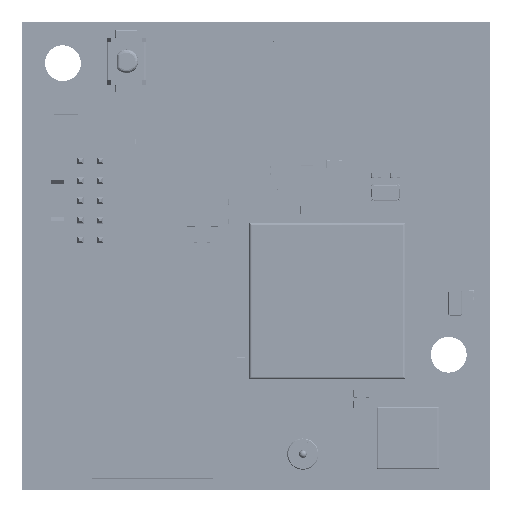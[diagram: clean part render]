
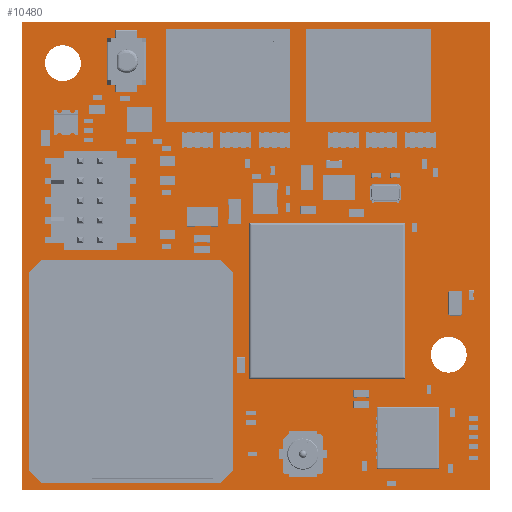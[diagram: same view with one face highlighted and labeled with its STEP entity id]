
A CAD part, top view. The second image highlights one B-rep face of the part: STEP entity #10480.
In plain terms, the highlighted planar face has unit normal (0, 0, 1).
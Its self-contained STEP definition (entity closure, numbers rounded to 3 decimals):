
#10279 = VERTEX_POINT('',#10280);
#10280 = CARTESIAN_POINT('',(0.,0.,0.));
#10286 = EDGE_CURVE('',#10279,#10287,#10289,.T.);
#10287 = VERTEX_POINT('',#10288);
#10288 = CARTESIAN_POINT('',(0.,30.,0.));
#10289 = LINE('',#10290,#10291);
#10290 = CARTESIAN_POINT('',(0.,0.,0.));
#10291 = VECTOR('',#10292,1.);
#10292 = DIRECTION('',(0.,1.,0.));
#10317 = EDGE_CURVE('',#10287,#10318,#10320,.T.);
#10318 = VERTEX_POINT('',#10319);
#10319 = CARTESIAN_POINT('',(30.,30.,0.));
#10320 = LINE('',#10321,#10322);
#10321 = CARTESIAN_POINT('',(0.,30.,0.));
#10322 = VECTOR('',#10323,1.);
#10323 = DIRECTION('',(1.,0.,0.));
#10348 = EDGE_CURVE('',#10318,#10349,#10351,.T.);
#10349 = VERTEX_POINT('',#10350);
#10350 = CARTESIAN_POINT('',(30.,0.,0.));
#10351 = LINE('',#10352,#10353);
#10352 = CARTESIAN_POINT('',(30.,30.,0.));
#10353 = VECTOR('',#10354,1.);
#10354 = DIRECTION('',(0.,-1.,0.));
#10379 = EDGE_CURVE('',#10349,#10279,#10380,.T.);
#10380 = LINE('',#10381,#10382);
#10381 = CARTESIAN_POINT('',(30.,0.,0.));
#10382 = VECTOR('',#10383,1.);
#10383 = DIRECTION('',(-1.,0.,0.));
#10403 = VERTEX_POINT('',#10404);
#10404 = CARTESIAN_POINT('',(3.77,27.36,0.));
#10410 = EDGE_CURVE('',#10403,#10403,#10411,.T.);
#10411 = CIRCLE('',#10412,1.15);
#10412 = AXIS2_PLACEMENT_3D('',#10413,#10414,#10415);
#10413 = CARTESIAN_POINT('',(2.62,27.36,0.));
#10414 = DIRECTION('',(0.,0.,1.));
#10415 = DIRECTION('',(1.,0.,0.));
#10436 = VERTEX_POINT('',#10437);
#10437 = CARTESIAN_POINT('',(28.505,8.67,0.));
#10443 = EDGE_CURVE('',#10436,#10436,#10444,.T.);
#10444 = CIRCLE('',#10445,1.15);
#10445 = AXIS2_PLACEMENT_3D('',#10446,#10447,#10448);
#10446 = CARTESIAN_POINT('',(27.355,8.67,0.));
#10447 = DIRECTION('',(0.,0.,1.));
#10448 = DIRECTION('',(1.,0.,0.));
#10480 = ADVANCED_FACE('',(#10481,#10487,#10490),#10493,.T.);
#10481 = FACE_BOUND('',#10482,.F.);
#10482 = EDGE_LOOP('',(#10483,#10484,#10485,#10486));
#10483 = ORIENTED_EDGE('',*,*,#10286,.T.);
#10484 = ORIENTED_EDGE('',*,*,#10317,.T.);
#10485 = ORIENTED_EDGE('',*,*,#10348,.T.);
#10486 = ORIENTED_EDGE('',*,*,#10379,.T.);
#10487 = FACE_BOUND('',#10488,.T.);
#10488 = EDGE_LOOP('',(#10489));
#10489 = ORIENTED_EDGE('',*,*,#10410,.F.);
#10490 = FACE_BOUND('',#10491,.T.);
#10491 = EDGE_LOOP('',(#10492));
#10492 = ORIENTED_EDGE('',*,*,#10443,.F.);
#10493 = PLANE('',#10494);
#10494 = AXIS2_PLACEMENT_3D('',#10495,#10496,#10497);
#10495 = CARTESIAN_POINT('',(0.,0.,0.));
#10496 = DIRECTION('',(0.,0.,1.));
#10497 = DIRECTION('',(1.,0.,0.));
